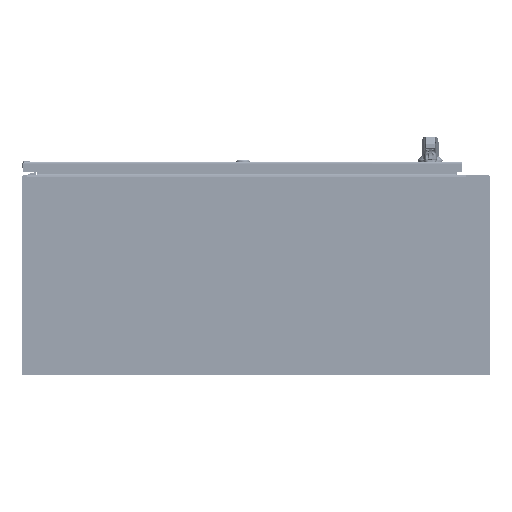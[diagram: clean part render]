
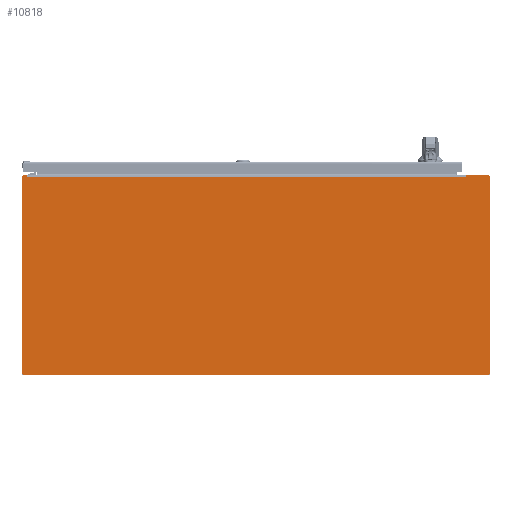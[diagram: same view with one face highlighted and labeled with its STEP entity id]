
A CAD part, front view. The second image highlights one B-rep face of the part: STEP entity #10818.
In plain terms, the highlighted planar face has unit normal (0, -1, 0).
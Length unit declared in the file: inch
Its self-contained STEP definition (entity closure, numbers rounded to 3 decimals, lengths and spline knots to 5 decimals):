
#9609=CARTESIAN_POINT('',(18.6025,0.,7.934));
#9610=DIRECTION('',(0.,-1.,0.));
#9611=DIRECTION('',(1.,0.,0.));
#9612=AXIS2_PLACEMENT_3D('',#9609,#9610,#9611);
#9617=DIRECTION('',(0.,0.,-1.));
#9618=VECTOR('',#9617,15.765);
#9619=CARTESIAN_POINT('',(18.6625,0.,7.934));
#9620=LINE('',#9619,#9618);
#9624=CARTESIAN_POINT('',(18.5375,0.,-7.831));
#9625=DIRECTION('',(0.,-1.,0.));
#9626=DIRECTION('',(0.,0.,-1.));
#9627=AXIS2_PLACEMENT_3D('',#9624,#9625,#9626);
#9632=DIRECTION('',(-1.,0.,0.));
#9633=VECTOR('',#9632,37.075);
#9634=CARTESIAN_POINT('',(18.5375,0.,-7.956));
#9635=LINE('',#9634,#9633);
#9639=CARTESIAN_POINT('',(-18.5375,0.,-7.831));
#9640=DIRECTION('',(0.,-1.,0.));
#9641=DIRECTION('',(-1.,0.,0.));
#9642=AXIS2_PLACEMENT_3D('',#9639,#9640,#9641);
#9647=DIRECTION('',(0.,0.,-1.));
#9648=VECTOR('',#9647,15.765);
#9649=CARTESIAN_POINT('',(-18.6625,0.,7.934));
#9650=LINE('',#9649,#9648);
#9654=CARTESIAN_POINT('',(-18.6025,0.,7.934));
#9655=DIRECTION('',(0.,-1.,0.));
#9656=DIRECTION('',(0.,0.,1.));
#9657=AXIS2_PLACEMENT_3D('',#9654,#9655,#9656);
#9662=DIRECTION('',(1.,0.,0.));
#9663=VECTOR('',#9662,0.2939);
#9664=CARTESIAN_POINT('',(-18.6025,0.,7.994));
#9665=LINE('',#9664,#9663);
#9669=DIRECTION('',(1.,0.,0.));
#9670=VECTOR('',#9669,1.7939);
#9671=CARTESIAN_POINT('',(16.8086,0.,7.994));
#9672=LINE('',#9671,#9670);
#9697=DIRECTION('',(0.,0.,-1.));
#9698=VECTOR('',#9697,0.125);
#9699=CARTESIAN_POINT('',(16.8086,0.,7.994));
#9700=LINE('',#9699,#9698);
#10009=DIRECTION('',(1.,0.,0.));
#10010=VECTOR('',#10009,35.1172);
#10011=CARTESIAN_POINT('',(-18.3086,0.,7.869));
#10012=LINE('',#10011,#10010);
#10046=DIRECTION('',(0.,0.,1.));
#10047=VECTOR('',#10046,0.125);
#10048=CARTESIAN_POINT('',(-18.3086,0.,7.869));
#10049=LINE('',#10048,#10047);
#10623=CARTESIAN_POINT('',(-18.3086,0.,7.869));
#10624=CARTESIAN_POINT('',(16.8086,0.,7.869));
#10625=VERTEX_POINT('',#10623);
#10626=VERTEX_POINT('',#10624);
#10707=CARTESIAN_POINT('',(16.8086,0.,7.994));
#10709=VERTEX_POINT('',#10707);
#10711=CARTESIAN_POINT('',(-18.3086,0.,7.994));
#10713=VERTEX_POINT('',#10711);
#10755=CARTESIAN_POINT('',(18.6625,0.,7.934));
#10756=CARTESIAN_POINT('',(18.6025,0.,7.994));
#10757=VERTEX_POINT('',#10755);
#10758=VERTEX_POINT('',#10756);
#10763=CARTESIAN_POINT('',(-18.6025,0.,7.994));
#10764=CARTESIAN_POINT('',(-18.6625,0.,7.934));
#10765=VERTEX_POINT('',#10763);
#10766=VERTEX_POINT('',#10764);
#10771=CARTESIAN_POINT('',(-18.6625,0.,-7.831));
#10772=CARTESIAN_POINT('',(-18.5375,0.,-7.956));
#10773=VERTEX_POINT('',#10771);
#10774=VERTEX_POINT('',#10772);
#10779=CARTESIAN_POINT('',(18.5375,0.,-7.956));
#10780=CARTESIAN_POINT('',(18.6625,0.,-7.831));
#10781=VERTEX_POINT('',#10779);
#10782=VERTEX_POINT('',#10780);
#10787=CARTESIAN_POINT('',(0.,0.,0.));
#10788=DIRECTION('',(0.,-1.,0.));
#10789=DIRECTION('',(-1.,0.,0.));
#10790=AXIS2_PLACEMENT_3D('',#10787,#10788,#10789);
#10791=PLANE('',#10790);
#10793=ORIENTED_EDGE('',*,*,#10792,.F.);
#10795=ORIENTED_EDGE('',*,*,#10794,.T.);
#10797=ORIENTED_EDGE('',*,*,#10796,.F.);
#10799=ORIENTED_EDGE('',*,*,#10798,.T.);
#10801=ORIENTED_EDGE('',*,*,#10800,.F.);
#10803=ORIENTED_EDGE('',*,*,#10802,.F.);
#10805=ORIENTED_EDGE('',*,*,#10804,.F.);
#10807=ORIENTED_EDGE('',*,*,#10806,.T.);
#10809=ORIENTED_EDGE('',*,*,#10808,.F.);
#10811=ORIENTED_EDGE('',*,*,#10810,.T.);
#10813=ORIENTED_EDGE('',*,*,#10812,.F.);
#10815=ORIENTED_EDGE('',*,*,#10814,.T.);
#10816=EDGE_LOOP('',(#10793,#10795,#10797,#10799,#10801,#10803,#10805,#10807,
#10809,#10811,#10813,#10815));
#10817=FACE_OUTER_BOUND('',#10816,.F.);
#9613=CIRCLE('',#9612,0.06);
#9628=CIRCLE('',#9627,0.125);
#9643=CIRCLE('',#9642,0.125);
#9658=CIRCLE('',#9657,0.06);
#10792=EDGE_CURVE('',#10757,#10758,#9613,.T.);
#10794=EDGE_CURVE('',#10757,#10782,#9620,.T.);
#10796=EDGE_CURVE('',#10781,#10782,#9628,.T.);
#10798=EDGE_CURVE('',#10781,#10774,#9635,.T.);
#10800=EDGE_CURVE('',#10773,#10774,#9643,.T.);
#10802=EDGE_CURVE('',#10766,#10773,#9650,.T.);
#10804=EDGE_CURVE('',#10765,#10766,#9658,.T.);
#10806=EDGE_CURVE('',#10765,#10713,#9665,.T.);
#10808=EDGE_CURVE('',#10625,#10713,#10049,.T.);
#10810=EDGE_CURVE('',#10625,#10626,#10012,.T.);
#10812=EDGE_CURVE('',#10709,#10626,#9700,.T.);
#10814=EDGE_CURVE('',#10709,#10758,#9672,.T.);
#10818=ADVANCED_FACE('',(#10817),#10791,.T.);
